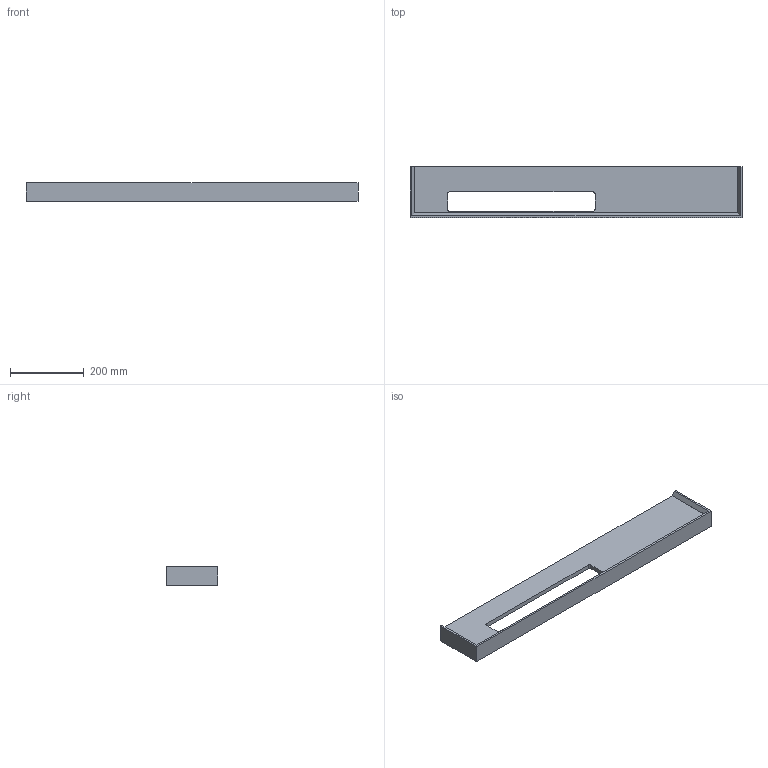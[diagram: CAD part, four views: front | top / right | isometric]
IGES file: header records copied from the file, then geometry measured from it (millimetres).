
Start section: Data from Parasolid IGES Translator 22.0.50, Copyright(c) 2006 Siemens P LM Software. All Rights Reserved.
Global section: file name: noorth-haus-H 5 D 13 W 90_4061.igs; native system: By Siemens PLM Incorporated; preprocessor: XPlus GENERIC/IGES 22.0.50; author: Noname; organization: Noname; date: 20251207.155717; units: metre
Bounding box: 900 x 138.25 x 50 mm (x, y, z)
Volume: 1719095.4 mm3; surface area: 355486.7 mm2
Topology: 4 solids, 4 shells, 35 faces, 81 edges, 54 vertices
Faces by surface type: plane 31, cylinder 4
